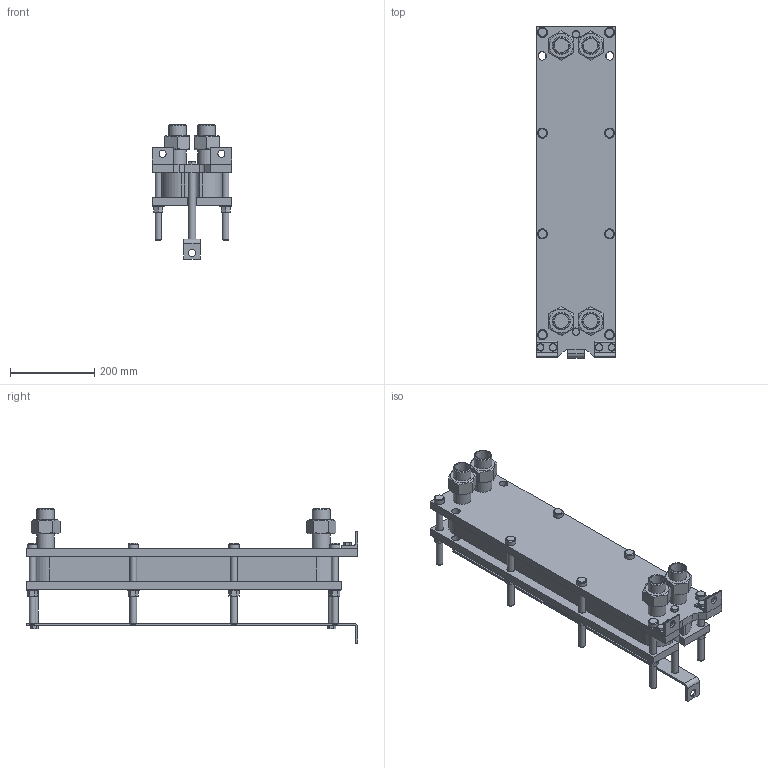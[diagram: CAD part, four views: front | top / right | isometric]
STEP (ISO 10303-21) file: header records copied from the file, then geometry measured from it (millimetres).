
FILE_DESCRIPTION(/* description */ (''),/* implementation_level */ '2;1');
FILE_NAME(/* name */ 'C:\Users\zhuro\Desktop\ENCO\TO\ЭН-008\ЭН-0,5-008-19-1.stp',/* time_stamp */ '2022-06-06T10:46:22+03:00',/* author */ ('zhuro'),/* organization */ (''),/* preprocessor_version */ 'ST-DEVELOPER v18.1',/* originating_system */ 'Autodesk Inventor 2022',/* authorisation */ '');
FILE_SCHEMA (('AUTOMOTIVE_DESIGN { 1 0 10303 214 3 1 1 }'));
Length unit declared in the file: millimetre
Products named in the file (1): ЭН-0,5-008-19-1
Bounding box: 190 x 790 x 320.2 mm (x, y, z)
Volume: 12633619.2 mm3; surface area: 1336359.5 mm2
Topology: 40 solids, 40 shells, 428 faces, 924 edges, 606 vertices
Faces by surface type: plane 273, cylinder 109, cone 40, torus 6
Full cylindrical faces by diameter (mm): 12 x6, 14 x2, 16 x20, 17 x8, 18 x19, 20 x5, 24 x8, 28 x8, 34.3 x8, 42.3 x8
Entity records: 15843 total; most frequent: CARTESIAN_POINT 5991, DIRECTION 1984, ORIENTED_EDGE 1848, EDGE_CURVE 924, AXIS2_PLACEMENT_3D 715, VERTEX_POINT 606, LINE 554, VECTOR 554
